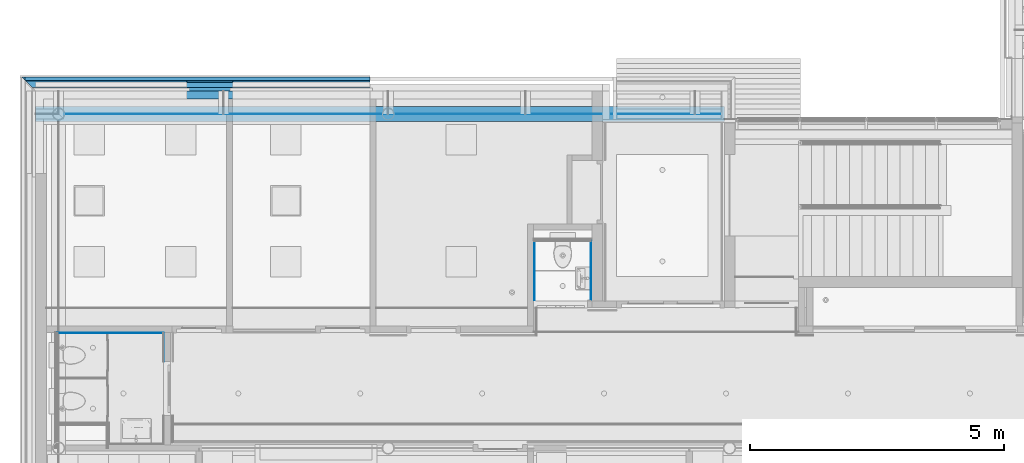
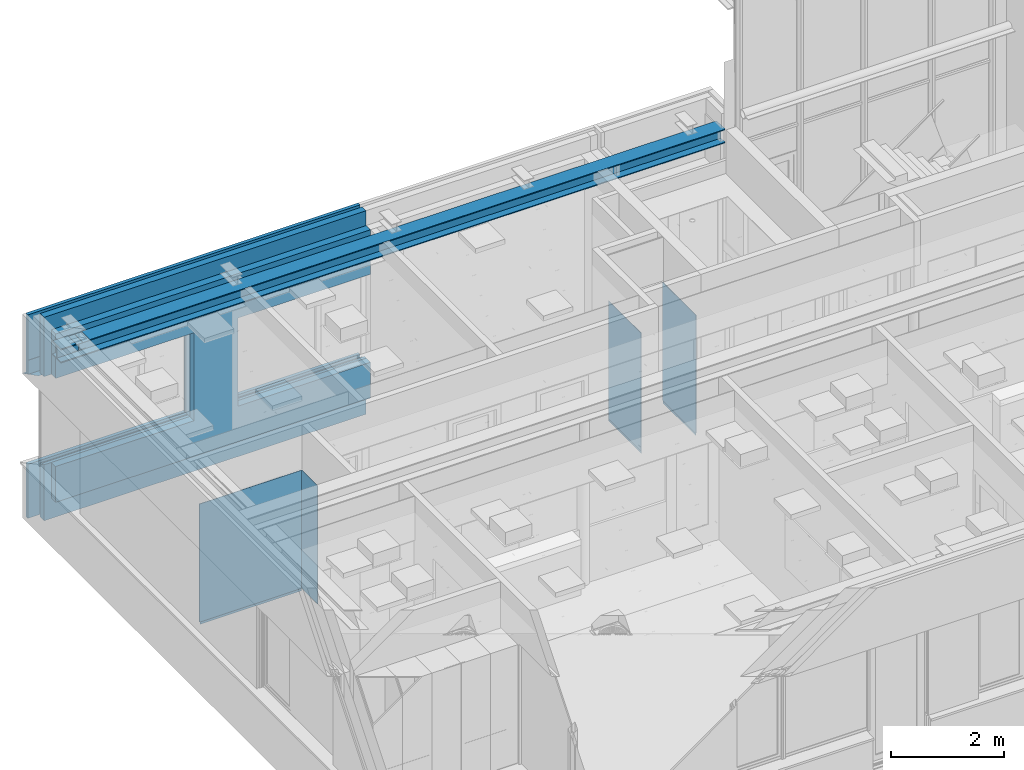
# One storey, part 92 of 347: 17 building element parts, 2 openings, 7 elements without a shape of their own.
"""IFC2X3 building model written with IfcOpenShell, lengths in millimetres."""

import ifcopenshell
import ifcopenshell.guid

model = None  # the IFC model being written
_history = None  # IfcOwnerHistory: only IFC2X3 demands one
_inside = {}  # id of a spatial element -> (the spatial element, [elements in it])
_under = {}  # id of a project, library or spatial element -> (it, [spatial elements below it])
_declared = {}  # id of a project -> (the project, [libraries it declares])
_typed = {}  # id of a type object -> (the type object, [elements of that type])
_made_of = {}  # id of a material, layer set ... -> (it, [elements and type objects made of it])


def new_model(schema):
    """Start an empty IFC model of exactly this schema.

    Asked for "IFC4X3", IfcOpenShell would pick the latest addendum, in which some entities
    have other attributes; the version numbers below select the first issue.
    IFC2X3 requires an IfcOwnerHistory on every rooted entity: one is made here for all.
    """
    global model, _history
    if schema == "IFC4X3":
        model = ifcopenshell.file(schema_version=(4, 3, 0, 0))
    else:
        model = ifcopenshell.file(schema=schema)
    _inside.clear()
    _under.clear()
    _declared.clear()
    _typed.clear()
    _made_of.clear()
    _history = None
    if model.schema == "IFC2X3":
        org = make("IfcOrganization", Name="unknown")
        user = make(
            "IfcPersonAndOrganization",
            ThePerson=make("IfcPerson", FamilyName="unknown"),
            TheOrganization=org,
        )
        app = make(
            "IfcApplication",
            ApplicationDeveloper=org,
            Version="unknown",
            ApplicationFullName="unknown",
            ApplicationIdentifier="unknown",
        )
        _history = make(
            "IfcOwnerHistory",
            OwningUser=user,
            OwningApplication=app,
            ChangeAction="ADDED",
            CreationDate=0,
        )
    return model


def make(cls, **values):
    """One entity of the class cls with the attributes given. An attribute that is None is left unset."""
    return model.create_entity(
        cls, **{name: value for name, value in values.items() if value is not None}
    )


def entity(cls, *values):
    """Any entity or typed value of the class cls, its attributes in the order of the schema. None: left unset."""
    e = model.create_entity(cls)
    for i, value in enumerate(values):
        if value is not None:
            e[i] = value
    return e


def rooted(cls, **values):
    """An entity with a GlobalId (a new one), such as an element, a storey or a relation."""
    return make(cls, GlobalId=ifcopenshell.guid.new(), OwnerHistory=_history, **values)


def si_unit(unit_type, name, prefix=None):
    """IfcSIUnit, for example si_unit("LENGTHUNIT", "METRE", prefix="MILLI")."""
    return make("IfcSIUnit", UnitType=unit_type, Prefix=prefix, Name=name)


def converted_unit(unit_type, name, factor, base, dimensions=None, offset=None):
    """IfcConversionBasedUnit, such as the inch: factor (a typed value) times the base unit."""
    return make(
        "IfcConversionBasedUnit"
        if offset is None
        else "IfcConversionBasedUnitWithOffset",
        ConversionOffset=offset,
        Dimensions=None
        if dimensions is None
        else entity("IfcDimensionalExponents", *dimensions),
        UnitType=unit_type,
        Name=name,
        ConversionFactor=make(
            "IfcMeasureWithUnit", ValueComponent=factor, UnitComponent=base
        ),
    )


def derived_unit(unit_type, elements):
    """IfcDerivedUnit: a product of units, each with its exponent."""
    return make(
        "IfcDerivedUnit",
        Elements=[
            make("IfcDerivedUnitElement", Unit=unit, Exponent=power)
            for unit, power in elements
        ],
        UnitType=unit_type,
    )


def money_unit(currency):
    """IfcMonetaryUnit."""
    return make("IfcMonetaryUnit", Currency=currency)


def assignment(units):
    """IfcUnitAssignment: the units of a project."""
    return None if units is None else make("IfcUnitAssignment", Units=units)


def point(xyz):
    """IfcCartesianPoint."""
    return None if xyz is None else make("IfcCartesianPoint", Coordinates=xyz)


def direction(xyz):
    """IfcDirection."""
    return None if xyz is None else make("IfcDirection", DirectionRatios=xyz)


def frame(location, z_axis=None, x_axis=None):
    """IfcAxis2Placement3D, a coordinate frame: its origin and axes. An axis left out is left unset."""
    return make(
        "IfcAxis2Placement3D",
        Location=point(location),
        Axis=direction(z_axis),
        RefDirection=direction(x_axis),
    )


def origin_with_axes():
    """The frame at (0, 0, 0) with the z axis (0, 0, 1) and the x axis (1, 0, 0) written out."""
    return frame((0.0, 0.0, 0.0), z_axis=(0.0, 0.0, 1.0), x_axis=(1.0, 0.0, 0.0))


def place(relative_to, where):
    """IfcLocalPlacement: puts the frame where relative to a parent placement (None: the world)."""
    return make(
        "IfcLocalPlacement", PlacementRelTo=relative_to, RelativePlacement=where
    )


def context(
    kind, dimensions, precision=None, world=None, true_north=None, identifier=None
):
    """IfcGeometricRepresentationContext, for example the 3D "Model" context."""
    return make(
        "IfcGeometricRepresentationContext",
        ContextIdentifier=identifier,
        ContextType=kind,
        CoordinateSpaceDimension=dimensions,
        Precision=precision,
        WorldCoordinateSystem=world,
        TrueNorth=true_north,
    )


def subcontext(parent, identifier, kind, view, scale=None):
    """IfcGeometricRepresentationSubContext, for example "Body" below "Model"."""
    return make(
        "IfcGeometricRepresentationSubContext",
        ContextIdentifier=identifier,
        ContextType=kind,
        ParentContext=parent,
        TargetScale=scale,
        TargetView=view,
    )


def project(units=None, contexts=None):
    """IfcProject with its units and contexts."""
    return rooted(
        "IfcProject",
        Name="project",
        RepresentationContexts=contexts,
        UnitsInContext=assignment(units),
    )


def spatial(cls, under=None, at=None, **own):
    """A site, building, storey or space (cls), placed at a placement, below another one or the project."""
    s = rooted(cls, ObjectPlacement=at, **own)
    if under is not None:
        _under.setdefault(under.id(), (under, []))[1].append(s)
    return s


def faces_of(points, faces, orient=None, outer=None):
    """IfcFace entities. A face is a list of loops; a loop is a list of indices into points, from 0.

    orient and outer hold one flag for each loop. By default every Orientation is true, the
    first loop of a face is its IfcFaceOuterBound and the others are IfcFaceBound.
    """
    made = []
    for i, loops in enumerate(faces):
        bounds = []
        for j, loop in enumerate(loops):
            is_outer = j == 0 if outer is None else outer[i][j]
            bounds.append(
                make(
                    "IfcFaceOuterBound" if is_outer else "IfcFaceBound",
                    Bound=make("IfcPolyLoop", Polygon=[points[k] for k in loop]),
                    Orientation=True if orient is None else orient[i][j],
                )
            )
        made.append(make("IfcFace", Bounds=bounds))
    return made


def faceted_brep(points, faces, orient=None, outer=None, voids=None):
    """IfcFacetedBrep: a solid bounded by flat faces; with voids (closed shells), ...WithVoids."""
    shared = [point(p) for p in points]
    hull = make("IfcClosedShell", CfsFaces=faces_of(shared, faces, orient, outer))
    if voids is None:
        return make("IfcFacetedBrep", Outer=hull)
    return make(
        "IfcFacetedBrepWithVoids",
        Outer=hull,
        Voids=[
            make(cls, CfsFaces=faces_of(shared, fs, o, b)) for cls, fs, o, b in voids
        ],
    )


def shape(context_of_items, identifier, shape_type, items):
    """IfcShapeRepresentation: the items that make up one representation, for example the "Body"."""
    return make(
        "IfcShapeRepresentation",
        ContextOfItems=context_of_items,
        RepresentationIdentifier=identifier,
        RepresentationType=shape_type,
        Items=items,
    )


def material(Name=None, Category=None):
    """IfcMaterial."""
    return make("IfcMaterial", Name=Name, Category=Category)


def made_of(thing, what):
    """Note that an element or type object is made of a material, layer set ...; save() writes the relation."""
    if what is not None:
        _made_of.setdefault(what.id(), (what, []))[1].append(thing)
    return thing


def type_object(cls, material=None, **own):
    """A type object (cls), such as IfcWallType, which elements share."""
    return made_of(rooted(cls, **own), material)


def element(
    cls,
    number,
    at=None,
    inside=None,
    cuts=None,
    type_object=None,
    material=None,
    context=None,
    identifier="Body",
    shape_type=None,
    held_by="IfcProductDefinitionShape",
    body=None,
    shapes=None,
    **own,
):
    """One element of the class cls, such as IfcWall. Its Tag is "e" and its number.

    at: its placement. inside: the storey or other place that contains it. cuts: it is an
    opening in that element (IfcRelVoidsElement). A single representation is given by context,
    identifier, shape_type and body (its items); several are given by shapes. held_by: the class
    of the entity that holds the representations. save() writes the other relations.
    """
    e = rooted(cls, Tag="e%d" % number, ObjectPlacement=at, **own)
    if body is not None:
        shapes = [shape(context, identifier, shape_type, body)]
    if shapes is not None:
        e.Representation = make(held_by, Representations=shapes)
    if inside is not None:
        _inside.setdefault(inside.id(), (inside, []))[1].append(e)
    if cuts is not None:
        rooted(
            "IfcRelVoidsElement", RelatingBuildingElement=cuts, RelatedOpeningElement=e
        )
    if type_object is not None:
        _typed.setdefault(type_object.id(), (type_object, []))[1].append(e)
    return made_of(e, material)


def aggregate(whole, parts):
    """IfcRelAggregates: a whole, such as a stair, and the parts it consists of."""
    return rooted("IfcRelAggregates", RelatingObject=whole, RelatedObjects=parts)


def save(model, path):
    """Write the relations noted so far, then the file.

    IfcRelAggregates (storeys below a building ...), IfcRelContainedInSpatialStructure (elements
    in a storey), IfcRelDefinesByType, IfcRelAssociatesMaterial and IfcRelDeclares: one each for
    every whole, place, type object, material and project.
    """
    for whole, parts in _under.values():
        aggregate(whole, parts)
    for where, things in _inside.values():
        rooted(
            "IfcRelContainedInSpatialStructure",
            RelatedElements=things,
            RelatingStructure=where,
        )
    for kind, things in _typed.values():
        rooted("IfcRelDefinesByType", RelatedObjects=things, RelatingType=kind)
    for what, things in _made_of.values():
        rooted("IfcRelAssociatesMaterial", RelatedObjects=things, RelatingMaterial=what)
    for by, libraries in _declared.values():
        rooted("IfcRelDeclares", RelatingContext=by, RelatedDefinitions=libraries)
    model.write(path)


model = new_model("IFC2X3")

# Units and contexts
model_context = context("Model", 3, precision=0.01, world=origin_with_axes(), true_north=direction((0.0, 1.0)))
plan_context = context("Plan", 3, precision=0.01, world=origin_with_axes(), true_north=direction((0.0, 1.0)))
body_context = subcontext(model_context, "Body", "Model", "MODEL_VIEW")
ifc_project = project(units=[si_unit("LENGTHUNIT", "METRE", prefix="MILLI"), si_unit("AREAUNIT", "SQUARE_METRE"), si_unit("VOLUMEUNIT", "CUBIC_METRE"), converted_unit("PLANEANGLEUNIT", "DEGREE", entity("IfcPlaneAngleMeasure", 0.0174532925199), si_unit("PLANEANGLEUNIT", "RADIAN"), dimensions=[0, 0, 0, 0, 0, 0, 0]), money_unit("EUR"), converted_unit("TIMEUNIT", "Year", entity("IfcTimeMeasure", 31556926.0), si_unit("TIMEUNIT", "SECOND"), dimensions=[0, 0, 1, 0, 0, 0, 0]), si_unit("MASSUNIT", "GRAM", prefix="KILO"), si_unit("THERMODYNAMICTEMPERATUREUNIT", "DEGREE_CELSIUS"), si_unit("LUMINOUSINTENSITYUNIT", "LUMEN"), si_unit("ENERGYUNIT", "JOULE", prefix="MEGA"), derived_unit("THERMALCONDUCTANCEUNIT", [(si_unit("POWERUNIT", "WATT"), 1), (si_unit("LENGTHUNIT", "METRE"), -1), (si_unit("THERMODYNAMICTEMPERATUREUNIT", "KELVIN"), -1)]), derived_unit("SPECIFICHEATCAPACITYUNIT", [(si_unit("ENERGYUNIT", "JOULE"), 1), (si_unit("MASSUNIT", "GRAM", prefix="KILO"), -1), (si_unit("THERMODYNAMICTEMPERATUREUNIT", "KELVIN"), -1)]), derived_unit("MASSDENSITYUNIT", [(si_unit("MASSUNIT", "GRAM", prefix="KILO"), 1), (si_unit("VOLUMEUNIT", "CUBIC_METRE"), -1)])], contexts=[model_context, plan_context])

# Site, building, storey
site_placement = place(None, origin_with_axes())
site = spatial("IfcSite", under=ifc_project, at=site_placement, Name="Site", CompositionType="ELEMENT")
building_placement = place(site_placement, origin_with_axes())
building = spatial("IfcBuilding", under=site, at=building_placement, Name="Naam gebouw", CompositionType="ELEMENT")
storey_placement = place(building_placement, origin_with_axes())
storey = spatial("IfcBuildingStorey", under=building, at=storey_placement, Name="begane grond", CompositionType="ELEMENT", Elevation=0.0)

# Beam, building element parts
beam_type_1 = type_object("IfcBeamType", Name="28 HEB300 300 x 300", PredefinedType="BEAM")
beam_1_placement = place(storey_placement, frame((4850.0, 18700.0, 3560.0), z_axis=(0.0, 0.0, 1.0), x_axis=(0.0, -1.0, 0.0)))
beam_1 = element("IfcBeam", 1, at=beam_1_placement, inside=storey, type_object=beam_type_1, Name="28_Balk-x", ObjectType="BEAM")
ifc_material_1 = material(Name="Metaal - Staal C")
building_element_part_1_placement = place(beam_1_placement, origin_with_axes())
building_element_part_1 = element("IfcBuildingElementPart", 2, at=building_element_part_1_placement, material=ifc_material_1, Name="Metaal - Staal C", context=body_context, shape_type="Brep", body=[
    faceted_brep([(-150.0, 310.0, 1.19209397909e-06), (-150.0, 310.0, -15.0000017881), (-150.0, 444.75, -15.0000017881), (-150.0, 444.75, -19.0), (-150.0, 0.0, -19.0), (-150.0, 0.0, 0.0), (150.0, 310.0, 1.19209397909e-06), (150.0, 310.0, -15.0000017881), (150.0, 444.75, -15.0000017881), (150.0, 444.75, -19.0), (5.5, 444.75, -19.0), (-5.5, 444.75, -19.0), (-5.5, 0.0, -19.0), (5.5, 0.0, -19.0), (150.0, 0.0, -19.0), (150.0, 0.0, 0.0)], [[[0, 1, 2, 3, 4, 5]], [[1, 0, 6, 7]], [[8, 2, 1, 7]], [[2, 8, 9, 10, 11, 3]], [[3, 11, 12, 4]], [[5, 4, 12, 13, 14, 15]], [[6, 0, 5, 15]], [[7, 6, 15, 14, 9, 8]], [[10, 9, 14, 13]], [[11, 10, 13, 12]]]),
    faceted_brep([(-150.0, 455.25, -15.0000017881), (-150.0, 590.0, -15.0000017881), (-150.0, 590.0, 1.19209397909e-06), (-150.0, 13555.0, 0.0), (-150.0, 13555.0, -19.0), (-150.0, 455.25, -19.0), (150.0, 455.25, -15.0000017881), (150.0, 590.0, -15.0000017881), (150.0, 590.0, 1.19209397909e-06), (150.0, 13555.0, 0.0), (-5.5, 13555.0, -19.0), (150.0, 13555.0, -19.0), (5.5, 13555.0, -19.0), (-5.5, 455.25, -19.0), (5.5, 455.25, -19.0), (150.0, 455.25, -19.0)], [[[0, 1, 2, 3, 4, 5]], [[1, 0, 6, 7]], [[8, 2, 1, 7]], [[2, 8, 9, 3]], [[10, 4, 3, 9, 11, 12]], [[13, 5, 4, 10]], [[6, 0, 5, 13, 14, 15]], [[7, 6, 15, 11, 9, 8]], [[15, 14, 12, 11]], [[14, 13, 10, 12]]]),
])
building_element_part_2_placement = place(beam_1_placement, origin_with_axes())
building_element_part_2 = element("IfcBuildingElementPart", 3, at=building_element_part_2_placement, material=ifc_material_1, Name="Metaal - Staal C", context=body_context, shape_type="Brep", body=[
    faceted_brep([(-150.0, 13555.0, -281.0), (-150.0, 13555.0, -300.0), (-150.0, 0.0, -300.0), (-150.0, 0.0, -281.0), (-5.5, 13555.0, -281.0), (5.5, 13555.0, -281.0), (150.0, 13555.0, -281.0), (150.0, 13555.0, -300.0), (150.0, 0.0, -300.0), (150.0, 0.0, -281.0), (5.5, 0.0, -281.0), (-5.5, 0.0, -281.0)], [[[0, 1, 2, 3]], [[0, 4, 5, 6, 7, 1]], [[1, 7, 8, 2]], [[3, 2, 8, 9, 10, 11]], [[4, 0, 3, 11]], [[5, 4, 11, 10]], [[6, 5, 10, 9]], [[7, 6, 9, 8]]]),
])
building_element_part_3_placement = place(beam_1_placement, origin_with_axes())
building_element_part_3 = element("IfcBuildingElementPart", 4, at=building_element_part_3_placement, material=ifc_material_1, Name="Metaal - Staal C", context=body_context, shape_type="Brep", body=[
    faceted_brep([(-5.5, 310.0, -280.0), (-5.5, 590.0, -280.0), (-5.5, 590.0, -265.000001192), (-5.5, 455.25, -265.000001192), (-5.5, 455.25, -19.0), (-5.5, 13555.0, -19.0), (-5.5, 13555.0, -281.0), (-5.5, 0.0, -281.0), (-5.5, 0.0, -19.0), (-5.5, 444.75, -19.0), (-5.5, 444.75, -265.000001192), (-5.5, 310.0, -265.000001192), (5.5, 310.0, -280.0), (5.5, 590.0, -280.0), (5.5, 590.0, -265.000001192), (5.5, 455.25, -265.000001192), (5.5, 455.25, -19.0), (5.5, 13555.0, -19.0), (5.5, 13555.0, -281.0), (5.5, 0.0, -281.0), (5.5, 0.0, -19.0), (5.5, 444.75, -19.0), (5.5, 444.75, -265.000001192), (5.5, 310.0, -265.000001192)], [[[0, 1, 2, 3, 4, 5, 6, 7, 8, 9, 10, 11]], [[1, 0, 12, 13]], [[2, 1, 13, 14]], [[3, 2, 14, 15]], [[3, 15, 16, 4]], [[4, 16, 17, 5]], [[18, 6, 5, 17]], [[7, 6, 18, 19]], [[8, 7, 19, 20]], [[21, 9, 8, 20]], [[22, 10, 9, 21]], [[11, 10, 22, 23]], [[0, 11, 23, 12]], [[23, 22, 21, 20, 19, 18, 17, 16, 15, 14, 13, 12]]]),
])
aggregate(beam_1, [building_element_part_1, building_element_part_2, building_element_part_3])

# Proxy, building element parts
building_element_proxy_type = type_object("IfcBuildingElementProxyType", Name="wandtegels 150x300 2600+ 10 x 2600", PredefinedType="NOTDEFINED")
proxy_1_placement = place(storey_placement, frame((15785.0, 15025.0, 0.0), z_axis=(0.0, 0.0, 1.0), x_axis=(0.0, 1.0, 0.0)))
proxy_1 = element("IfcBuildingElementProxy", 5, at=proxy_1_placement, inside=storey, type_object=building_element_proxy_type, Name="42_53 wandtegels keramisch")
ifc_material_2 = material(Name="48 vloeivloer Bolidt")
building_element_part_4_placement = place(proxy_1_placement, origin_with_axes())
building_element_part_4 = element("IfcBuildingElementPart", 6, at=building_element_part_4_placement, material=ifc_material_2, Name="48 vloeivloer Bolidt", context=body_context, shape_type="Brep", body=[
    faceted_brep([(10.0000089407, 10.0000089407, 50.0000059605), (10.0000089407, 8.00001490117, 50.0000059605), (1171.99999702, 8.00001490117, 50.0000059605), (1171.99999702, 10.0000089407, 50.0000059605), (10.0000089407, 8.00001490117, 0.0), (10.0000089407, 10.0000089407, 0.0), (1171.99999702, 8.00001490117, 0.0), (1171.99999702, 10.0000089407, 0.0)], [[[0, 1, 2, 3]], [[4, 1, 0, 5]], [[1, 4, 6, 2]], [[7, 3, 2, 6]], [[5, 0, 3, 7]], [[4, 5, 7, 6]]]),
])
ifc_material_3 = material(Name="Tegels - Wand")
building_element_part_5_placement = place(proxy_1_placement, origin_with_axes())
building_element_part_5 = element("IfcBuildingElementPart", 7, at=building_element_part_5_placement, material=ifc_material_3, Name="Tegels - Wand", context=body_context, shape_type="Brep", body=[
    faceted_brep([(10.0, 10.0, 2600.0), (10.0, 0.0, 2600.0), (1180.00001192, 0.0, 2600.0), (1180.00001192, 10.0, 2600.0), (10.0, 0.0, 50.0), (10.0, 10.0, 50.0), (10.0, 8.00001490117, 50.0), (1180.00001192, 0.0, 50.0000059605), (1180.00001192, 10.0, 50.0000059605), (1180.00001192, 8.00001490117, 50.0000059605)], [[[0, 1, 2, 3]], [[4, 1, 0, 5, 6]], [[1, 4, 7, 2]], [[8, 3, 2, 7, 9]], [[5, 0, 3, 8]], [[6, 5, 8, 9]], [[4, 6, 9, 7]]]),
])
aggregate(proxy_1, [building_element_part_4, building_element_part_5])

proxy_2_placement = place(storey_placement, frame((14660.0, 16205.0, 0.0), z_axis=(0.0, 0.0, 1.0), x_axis=(0.0, -1.0, 0.0)))
proxy_2 = element("IfcBuildingElementProxy", 8, at=proxy_2_placement, inside=storey, type_object=building_element_proxy_type, Name="42_55 wandtegels keramisch")
building_element_part_6_placement = place(proxy_2_placement, origin_with_axes())
building_element_part_6 = element("IfcBuildingElementPart", 9, at=building_element_part_6_placement, material=ifc_material_2, Name="48 vloeivloer Bolidt", context=body_context, shape_type="Brep", body=[
    faceted_brep([(10.0000089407, 10.0000089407, 0.0), (10.0000089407, 10.0000089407, 50.0000059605), (1170.0, 10.0000089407, 50.0000059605), (1170.0, 10.0000089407, 0.0), (10.0000089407, 8.00001490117, 50.0000059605), (10.0000089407, 8.00001490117, 0.0), (1170.0, 8.00001490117, 50.0000059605), (1170.0, 8.00001490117, 0.0)], [[[0, 1, 2, 3]], [[4, 1, 0, 5]], [[1, 4, 6, 2]], [[6, 7, 3, 2]], [[5, 0, 3, 7]], [[4, 5, 7, 6]]]),
])
building_element_part_7_placement = place(proxy_2_placement, origin_with_axes())
building_element_part_7 = element("IfcBuildingElementPart", 10, at=building_element_part_7_placement, material=ifc_material_3, Name="Tegels - Wand", context=body_context, shape_type="Brep", body=[
    faceted_brep([(10.0, 10.0, 50.0), (10.0, 10.0, 2600.0), (1170.0, 10.0, 2600.0), (1170.0, 10.0, 50.0), (10.0, 0.0, 2600.0), (10.0, 8.00001490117, 50.0), (10.0, 0.0, 50.0), (1170.0, 0.0, 2600.0), (1170.0, 0.0, 50.0), (1170.0, 8.00001490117, 50.0000059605)], [[[0, 1, 2, 3]], [[4, 1, 0, 5, 6]], [[1, 4, 7, 2]], [[3, 2, 7, 8, 9]], [[5, 0, 3, 9]], [[6, 5, 9, 8]], [[4, 6, 8, 7]]]),
])
aggregate(proxy_2, [building_element_part_6, building_element_part_7])

proxy_3_placement = place(storey_placement, frame((7365.0, 14389.999981, 0.0), z_axis=(0.0, 0.0, 1.0), x_axis=(-1.0, 0.0, 0.0)))
proxy_3 = element("IfcBuildingElementProxy", 11, at=proxy_3_placement, inside=storey, type_object=building_element_proxy_type, Name="42_51 wandtegels keramisch")
building_element_part_8_placement = place(proxy_3_placement, origin_with_axes())
building_element_part_8 = element("IfcBuildingElementPart", 12, at=building_element_part_8_placement, material=ifc_material_2, Name="48 vloeivloer Bolidt", context=body_context, shape_type="Brep", body=[
    faceted_brep([(10.0000089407, 10.0000089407, 50.0000059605), (10.0000089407, 8.00001490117, 50.0000059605), (2086.99999702, 8.00001490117, 50.0000059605), (2086.99999702, 10.0000089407, 50.0000059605), (10.0000089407, 8.00001490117, 0.0), (10.0000089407, 10.0000089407, 0.0), (2086.99999702, 8.00001490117, 0.0), (2086.99999702, 10.0000089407, 0.0)], [[[0, 1, 2, 3]], [[4, 1, 0, 5]], [[1, 4, 6, 2]], [[7, 3, 2, 6]], [[5, 0, 3, 7]], [[4, 5, 7, 6]]]),
])
building_element_part_9_placement = place(proxy_3_placement, origin_with_axes())
building_element_part_9 = element("IfcBuildingElementPart", 13, at=building_element_part_9_placement, material=ifc_material_3, Name="Tegels - Wand", context=body_context, shape_type="Brep", body=[
    faceted_brep([(10.0, 10.0, 2600.0), (10.0, 0.0, 2600.0), (2095.00001192, 0.0, 2600.0), (2095.00001192, 10.0, 2600.0), (10.0, 0.0, 50.0), (10.0, 10.0, 50.0), (10.0, 8.00001490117, 50.0), (2095.00001192, 0.0, 50.0000059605), (2095.00001192, 10.0, 50.0000059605), (2095.00001192, 8.00001490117, 50.0000059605)], [[[0, 1, 2, 3]], [[4, 1, 0, 5, 6]], [[1, 4, 7, 2]], [[8, 3, 2, 7, 9]], [[5, 0, 3, 8]], [[6, 5, 8, 9]], [[4, 6, 9, 7]]]),
])
aggregate(proxy_3, [building_element_part_8, building_element_part_9])

# Proxy, building element part
proxy_4_placement = place(storey_placement, frame((7365.0, 13825.775, 0.0), z_axis=(0.0, 0.0, 1.0), x_axis=(0.0, 1.0, 0.0)))
proxy_4 = element("IfcBuildingElementProxy", 14, at=proxy_4_placement, inside=storey, type_object=building_element_proxy_type, Name="42_50 wandtegels keramisch")
building_element_part_10_placement = place(proxy_4_placement, origin_with_axes())
building_element_part_10 = element("IfcBuildingElementPart", 15, at=building_element_part_10_placement, material=ifc_material_3, Name="Tegels - Wand", context=body_context, shape_type="Brep", body=[
    faceted_brep([(564.224992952, 0.0, 50.0000059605), (564.224992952, 0.0, 2600.0), (0.0, 0.0, 2600.0), (0.0, 0.0, 50.0), (564.224992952, 10.0, 2600.0), (564.224992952, 8.00001490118, 50.0000059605), (564.224992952, 10.0, 50.0000059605), (0.0, 10.0, 2600.0), (0.0, 10.0, 50.0), (0.0, 8.00001490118, 50.0000059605)], [[[0, 1, 2, 3]], [[4, 1, 0, 5, 6]], [[1, 4, 7, 2]], [[3, 2, 7, 8, 9]], [[5, 0, 3, 9]], [[6, 5, 9, 8]], [[4, 6, 8, 7]]]),
])
aggregate(proxy_4, [building_element_part_10])

# Beam, building element parts
beam_type_2 = type_object("IfcBeamType", Name="21 geveldrager (2600+) 208 x 300", PredefinedType="LINTEL")
beam_2_placement = place(storey_placement, frame((11425.0, 19000.0, 0.0), z_axis=(0.0, 0.0, 1.0), x_axis=(0.0, 1.0, 0.0)))
beam_2 = element("IfcBeam", 16, at=beam_2_placement, inside=storey, type_object=beam_type_2, Name="21_21 geveldrager", ObjectType="LINTEL")
building_element_part_11_placement = place(beam_2_placement, origin_with_axes())
building_element_part_11 = element("IfcBuildingElementPart", 17, at=building_element_part_11_placement, material=ifc_material_1, Name="Metaal - Staal C", context=body_context, shape_type="Brep", body=[
    faceted_brep([(359.999999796, 6784.9999998, 2605.00000002), (359.999999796, 6784.9999998, 2900.00000119), (359.999999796, 0.0, 2900.00000119), (359.999999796, 0.0, 2605.00000002), (430.000000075, 6855.00000007, 2605.00000002), (430.000000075, 6855.00000007, 2600.0), (354.999995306, 6779.99999531, 2600.0), (354.999995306, 6779.99999531, 2601.0), (354.999995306, 6779.99999531, 2900.00000119), (354.999995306, 0.0, 2900.00000119), (354.999995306, 0.0, 2601.0), (354.999995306, 0.0, 2600.0), (430.000000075, 0.0, 2600.0), (430.000000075, 0.0, 2605.00000002)], [[[0, 1, 2, 3]], [[0, 4, 5, 6, 7, 8, 1]], [[1, 8, 9, 2]], [[3, 2, 9, 10, 11, 12, 13]], [[4, 0, 3, 13]], [[5, 4, 13, 12]], [[6, 5, 12, 11]], [[7, 6, 11, 10]], [[8, 7, 10, 9]]]),
])
building_element_part_12_placement = place(beam_2_placement, origin_with_axes())
building_element_part_12 = element("IfcBuildingElementPart", 18, at=building_element_part_12_placement, material=ifc_material_1, Name="Metaal - Staal C", context=body_context, shape_type="Brep", body=[
    faceted_brep([(354.999996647, 6779.99999665, 2601.0), (222.0, 6647.0, 2601.0), (222.0, 0.0, 2601.0), (354.999996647, 0.0, 2601.0), (354.999996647, 6779.99999665, 2600.0), (222.0, 6647.0, 2600.0), (222.0, 0.0, 2600.0), (354.999996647, 0.0, 2600.0)], [[[0, 1, 2, 3]], [[0, 4, 5, 1]], [[1, 5, 6, 2]], [[3, 2, 6, 7]], [[4, 0, 3, 7]], [[5, 4, 7, 6]]]),
])
aggregate(beam_2, [building_element_part_11, building_element_part_12])

# Wall, openings, building element parts
wall_type = type_object("IfcWallType", Name="22 beg hout (2600+) borstwering' 430 x 4390", PredefinedType="NOTDEFINED")
wall_placement = place(storey_placement, frame((11425.0, 19000.0, 0.0), z_axis=(0.0, 0.0, 1.0), x_axis=(-1.0, 0.0, 0.0)))
wall = element("IfcWall", 19, at=wall_placement, inside=storey, type_object=wall_type, Name="21_21 betonwand")
opening_1_placement = place(wall_placement, frame((5637.4986462, 0.0, 700.0), z_axis=(0.0, 0.0, 1.0), x_axis=(1.0, 0.0, 0.0)))
element("IfcOpeningElement", 20, at=opening_1_placement, cuts=wall, Name="31_-", context=body_context, shape_type="Brep", body=[
    faceted_brep([(2037.50135987, -860.000161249, 1900.0), (2037.50135987, -860.000161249, 0.0), (2037.50135987, -302.00008173, 0.0), (2037.50135987, -302.00008173, 1900.0), (-2037.50135987, -860.000161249, 1900.0), (-2037.50135987, -860.000161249, 0.0), (-2037.50135987, -302.00008173, 0.0), (-2037.50135987, -302.00008173, 1900.0)], [[[0, 1, 2, 3]], [[0, 4, 5, 1]], [[1, 5, 6, 2]], [[3, 2, 6, 7]], [[4, 0, 3, 7]], [[5, 4, 7, 6]]]),
    faceted_brep([(2037.50135987, 255.99999779, 0.0), (2037.50135987, 255.99999779, 1900.0), (2037.50135987, -302.00008173, 1900.0), (2037.50135987, -302.00008173, 0.0), (-2037.50135987, 255.99999779, 0.0), (-2037.50135987, 255.99999779, 1900.0), (-2037.50135987, -302.00008173, 1900.0), (-2037.50135987, -302.00008173, 0.0)], [[[0, 1, 2, 3]], [[0, 4, 5, 1]], [[1, 5, 6, 2]], [[3, 2, 6, 7]], [[4, 0, 3, 7]], [[5, 4, 7, 6]]]),
])
opening_2_placement = place(wall_placement, frame((1349.99864316, 0.0, 700.0), z_axis=(0.0, 0.0, 1.0), x_axis=(1.0, 0.0, 0.0)))
element("IfcOpeningElement", 21, at=opening_2_placement, cuts=wall, Name="31_-", context=body_context, shape_type="Brep", body=[
    faceted_brep([(1349.99864316, -860.000161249, 1900.0), (1349.99864316, -860.000161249, 0.0), (1349.99864316, -302.00008173, 0.0), (1349.99864316, -302.00008173, 1900.0), (-1349.99864316, -860.000161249, 1900.0), (-1349.99864316, -860.000161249, 0.0), (-1349.99864316, -302.00008173, 0.0), (-1349.99864316, -302.00008173, 1900.0)], [[[0, 1, 2, 3]], [[0, 4, 5, 1]], [[1, 5, 6, 2]], [[3, 2, 6, 7]], [[4, 0, 3, 7]], [[5, 4, 7, 6]]]),
    faceted_brep([(1349.99864316, 255.99999779, 0.0), (1349.99864316, 255.99999779, 1900.0), (1349.99864316, -302.00008173, 1900.0), (1349.99864316, -302.00008173, 0.0), (-1349.99864316, 255.99999779, 0.0), (-1349.99864316, 255.99999779, 1900.0), (-1349.99864316, -302.00008173, 1900.0), (-1349.99864316, -302.00008173, 0.0)], [[[0, 1, 2, 3]], [[0, 4, 5, 1]], [[1, 5, 6, 2]], [[3, 2, 6, 7]], [[4, 0, 3, 7]], [[5, 4, 7, 6]]]),
])
ifc_material_4 = material(Name="Steen - Kalkzandsteen C")
building_element_part_13_placement = place(wall_placement, origin_with_axes())
building_element_part_13 = element("IfcBuildingElementPart", 22, at=building_element_part_13_placement, material=ifc_material_4, Name="Steen - Kalkzandsteen C", context=body_context, shape_type="Brep", body=[
    faceted_brep([(0.0, -2.21049134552e-06, 3560.0), (0.0, -1.95863947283e-06, 2600.0), (0.0, -150.000002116, 2600.0), (0.0, -150.0, 3560.0), (2699.99728633, -1.46543399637e-06, 720.0), (2699.99728633, -2.36244446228e-06, 2600.0), (6425.00000221, -2.21049489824e-06, 3560.0), (6424.99999554, -6.21681905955e-06, 2600.0), (3599.99728633, -2.36244446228e-06, 2600.0), (3599.99728633, -1.40625360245e-05, 720.0), (3599.99728633, -1.40625360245e-05, 700.0), (6424.99998247, -1.40625360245e-05, 700.0), (6425.00000196, -2.36244446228e-06, -70.0), (0.0, -2.20094165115e-06, -70.0), (0.0, -1.46543399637e-06, 700.0), (2699.99728633, -1.46543399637e-06, 700.0), (2699.99728633, -150.0, 2600.0), (2699.99728633, -150.000006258, 720.0), (2699.99728633, -150.000006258, 700.0), (0.0, -150.000006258, 700.0), (0.0, -150.0, -70.0), (6425.00000221, -150.0, -70.0), (6425.00000221, -149.99999285, 700.0), (3599.99728633, -149.99999285, 700.0), (3599.99728633, -149.99999285, 720.0), (3599.99728633, -150.0, 2600.0), (6425.00000221, -149.999997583, 2600.0), (6425.00000221, -150.0, 3560.0)], [[[0, 1, 2, 3]], [[4, 5, 1, 0, 6, 7, 8, 9, 10, 11, 12, 13, 14, 15]], [[5, 16, 2, 1]], [[2, 16, 17, 18, 19, 20, 21, 22, 23, 24, 25, 26, 27, 3]], [[3, 27, 6, 0]], [[4, 17, 16, 5]], [[26, 7, 6, 27]], [[26, 25, 8, 7]], [[25, 24, 9, 8]], [[9, 24, 23, 10]], [[22, 11, 10, 23]], [[12, 11, 22, 21]], [[20, 13, 12, 21]], [[20, 19, 14, 13]], [[19, 18, 15, 14]], [[18, 17, 4, 15]]]),
])
ifc_material_5 = material(Name="Isolatie - Kunststof hard")
building_element_part_14_placement = place(wall_placement, origin_with_axes())
building_element_part_14 = element("IfcBuildingElementPart", 23, at=building_element_part_14_placement, material=ifc_material_5, Name="Isolatie - Kunststof hard", context=body_context, shape_type="Brep", body=[
    faceted_brep([(0.0, -149.999985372, 3880.0), (0.0, -149.999982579, 2600.0), (0.0, -289.999979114, 2600.0), (0.0, -289.999979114, 3880.0), (2699.99728633, -149.999985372, 700.0), (2699.99728633, -149.999985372, 2600.0), (6574.99998537, -149.999985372, 3880.0), (6574.99998258, -149.999982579, 2600.0), (3599.99728633, -149.999985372, 2600.0), (3599.99728633, -149.999985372, 700.0), (6574.99997843, -149.999978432, 700.0), (6574.99997673, -149.999976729, -80.0000207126), (0.0, -149.999976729, -80.0000207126), (0.0, -149.999978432, 700.0), (2699.99728633, -289.999979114, 2600.0), (2699.99728633, -289.999979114, 700.0), (3599.99728633, -289.999979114, 700.0), (3599.99728633, -289.999979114, 2600.0), (6574.99998258, -289.999979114, 2600.0), (6574.99998537, -289.999979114, 3880.0), (2699.99728633, -209.999992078, 700.0), (3599.99728633, -209.999992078, 700.0), (6574.99997843, -209.999992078, 700.0), (6574.99997833, -209.999992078, 654.999991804), (6574.99997833, -289.999979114, 654.999991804), (6574.99997673, -289.999979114, -80.0000207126), (6574.99997843, -209.999971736, 697.961793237), (6574.99998537, -149.999985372, -510.0), (0.0, -149.999985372, -510.0), (0.0, -209.999971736, 697.961793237), (0.0, -209.999992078, 700.0), (0.0, -289.999979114, -510.0), (0.0, -289.999979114, 655.000016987), (0.0, -209.999992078, 655.000016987), (6574.99998537, -289.999979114, -510.0)], [[[0, 1, 2, 3]], [[4, 5, 1, 0, 6, 7, 8, 9, 10, 11, 12, 13]], [[5, 14, 2, 1]], [[2, 14, 15, 16, 17, 18, 19, 3]], [[19, 6, 0, 3]], [[20, 15, 14, 5, 4]], [[18, 7, 6, 19]], [[18, 17, 8, 7]], [[16, 21, 9, 8, 17]], [[21, 22, 10, 9]], [[23, 24, 25, 11, 10, 22, 26]], [[11, 27, 28, 12]], [[29, 30, 13, 12, 28, 31, 32, 33]], [[4, 13, 30, 20]], [[16, 15, 20, 21]], [[21, 20, 30, 29, 26, 22]], [[32, 24, 23, 33]], [[31, 34, 25, 24, 32]], [[27, 11, 25, 34]], [[26, 29, 33, 23]], [[27, 34, 31, 28]]]),
])
ifc_material_6 = material(Name="24 Hout gevelbekleding Lariks")
building_element_part_15_placement = place(wall_placement, origin_with_axes())
building_element_part_15 = element("IfcBuildingElementPart", 24, at=building_element_part_15_placement, material=ifc_material_6, Name="24 Hout gevelbekleding Lariks", context=body_context, shape_type="Brep", body=[
    faceted_brep([(2699.99728633, -325.0, 2600.0), (2699.99728633, -349.999974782, 2600.0), (3599.99728633, -349.999974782, 2600.0), (3599.99728633, -325.0, 2600.0), (2699.99728633, -349.999974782, 700.0), (2699.99728633, -325.0, 700.0), (3599.99728633, -349.999974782, 700.0), (3599.99728633, -325.0, 700.0)], [[[0, 1, 2, 3]], [[4, 1, 0, 5]], [[1, 4, 6, 2]], [[2, 6, 7, 3]], [[5, 0, 3, 7]], [[4, 5, 7, 6]]]),
])
ifc_material_7 = material(Name="Steen - Baksteen")
building_element_part_16_placement = place(wall_placement, origin_with_axes())
building_element_part_16 = element("IfcBuildingElementPart", 25, at=building_element_part_16_placement, material=ifc_material_7, Name="Steen - Baksteen", context=body_context, shape_type="Brep", body=[
    faceted_brep([(0.0, -430.00008173, 2599.99997855), (6785.00002236, -430.00008173, 2599.99997855), (6785.00002236, -430.00008173, 3880.00000823), (0.0, -430.00008173, 3880.00000823), (0.0, -360.000022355, 2599.99997855), (6785.00002236, -360.000022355, 2599.99997855), (6785.00002236, -360.000022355, 3880.00000823), (0.0, -360.000022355, 3880.00000823)], [[[0, 1, 2, 3]], [[4, 5, 1, 0]], [[5, 6, 2, 1]], [[3, 2, 6, 7]], [[4, 0, 3, 7]], [[7, 6, 5, 4]]]),
])
building_element_part_17_placement = place(wall_placement, origin_with_axes())
building_element_part_17 = element("IfcBuildingElementPart", 26, at=building_element_part_17_placement, material=ifc_material_7, Name="Steen - Baksteen", context=body_context, shape_type="Brep", body=[
    faceted_brep([(6785.0000631, -430.00008173, -510.0), (6785.0000631, -430.00008173, 654.999992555), (0.0, -430.00008173, 654.999992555), (0.0, -430.00008173, -510.0), (6785.0000631, -360.000063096, -510.0), (6785.0000631, -360.000063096, 654.999992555), (0.0, -360.000063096, 654.999992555), (0.0, -360.000063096, -510.0)], [[[0, 1, 2, 3]], [[4, 5, 1, 0]], [[2, 1, 5, 6]], [[7, 3, 2, 6]], [[7, 4, 0, 3]], [[6, 5, 4, 7]]]),
])
aggregate(wall, [building_element_part_13, building_element_part_14, building_element_part_15, building_element_part_16, building_element_part_17])

save(model, "model.ifc")
